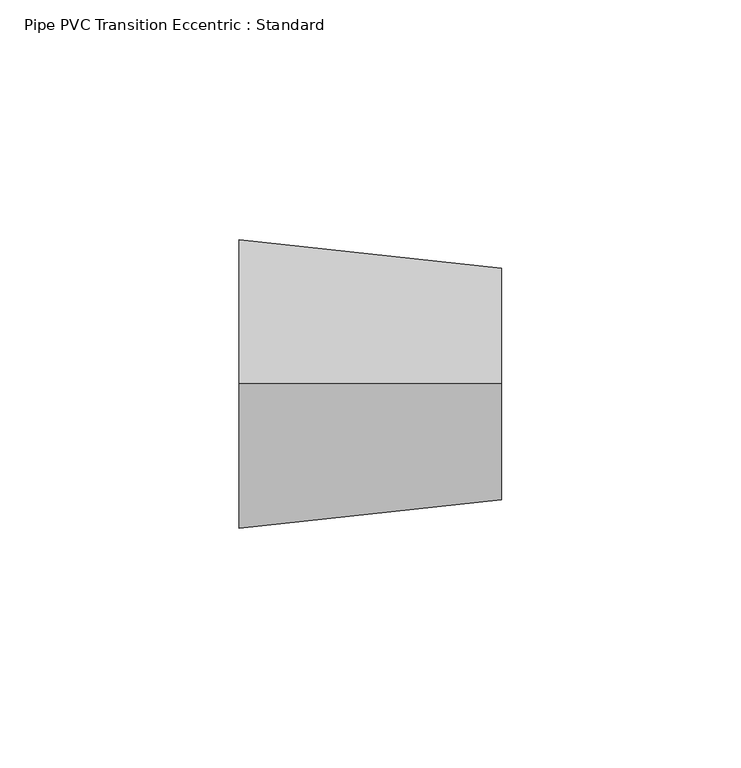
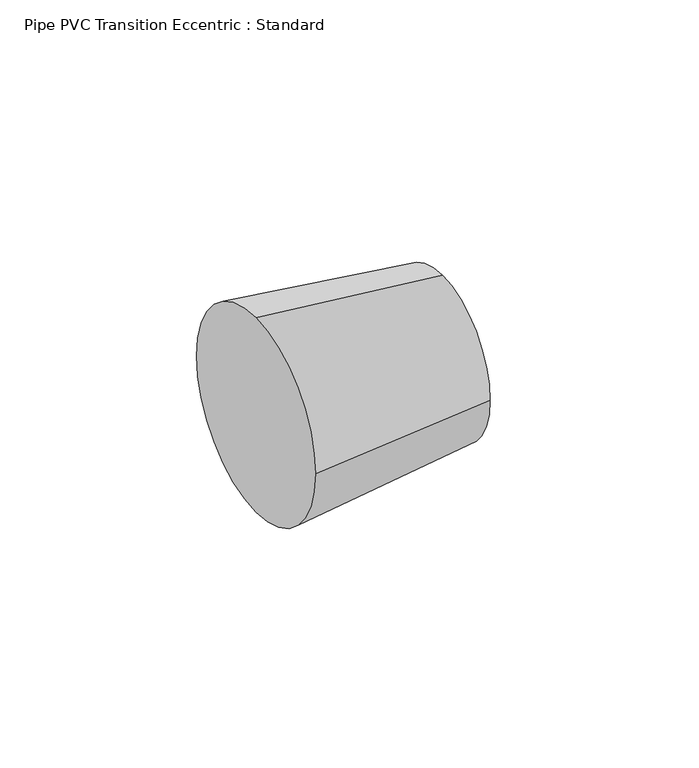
"""IFC4 building model written with IfcOpenShell, lengths in millimetres: pipe fitting geometry, Pipe PVC Transition Eccentric : Standard."""

import ifcopenshell
import ifcopenshell.guid

model = None  # the IFC model being written
_history = None  # IfcOwnerHistory: only IFC2X3 demands one
_inside = {}  # id of a spatial element -> (the spatial element, [elements in it])
_under = {}  # id of a project, library or spatial element -> (it, [spatial elements below it])
_declared = {}  # id of a project -> (the project, [libraries it declares])
_typed = {}  # id of a type object -> (the type object, [elements of that type])
_made_of = {}  # id of a material, layer set ... -> (it, [elements and type objects made of it])


def new_model(schema):
    """Start an empty IFC model of exactly this schema.

    Asked for "IFC4X3", IfcOpenShell would pick the latest addendum, in which some entities
    have other attributes; the version numbers below select the first issue.
    IFC2X3 requires an IfcOwnerHistory on every rooted entity: one is made here for all.
    """
    global model, _history
    if schema == "IFC4X3":
        model = ifcopenshell.file(schema_version=(4, 3, 0, 0))
    else:
        model = ifcopenshell.file(schema=schema)
    _inside.clear()
    _under.clear()
    _declared.clear()
    _typed.clear()
    _made_of.clear()
    _history = None
    if model.schema == "IFC2X3":
        org = make("IfcOrganization", Name="unknown")
        user = make(
            "IfcPersonAndOrganization",
            ThePerson=make("IfcPerson", FamilyName="unknown"),
            TheOrganization=org,
        )
        app = make(
            "IfcApplication",
            ApplicationDeveloper=org,
            Version="unknown",
            ApplicationFullName="unknown",
            ApplicationIdentifier="unknown",
        )
        _history = make(
            "IfcOwnerHistory",
            OwningUser=user,
            OwningApplication=app,
            ChangeAction="ADDED",
            CreationDate=0,
        )
    return model


def make(cls, **values):
    """One entity of the class cls with the attributes given. An attribute that is None is left unset."""
    return model.create_entity(
        cls, **{name: value for name, value in values.items() if value is not None}
    )


def rooted(cls, **values):
    """An entity with a GlobalId (a new one), such as an element, a storey or a relation."""
    return make(cls, GlobalId=ifcopenshell.guid.new(), OwnerHistory=_history, **values)


def si_unit(unit_type, name, prefix=None):
    """IfcSIUnit, for example si_unit("LENGTHUNIT", "METRE", prefix="MILLI")."""
    return make("IfcSIUnit", UnitType=unit_type, Prefix=prefix, Name=name)


def assignment(units):
    """IfcUnitAssignment: the units of a project."""
    return None if units is None else make("IfcUnitAssignment", Units=units)


def point(xyz):
    """IfcCartesianPoint."""
    return None if xyz is None else make("IfcCartesianPoint", Coordinates=xyz)


def direction(xyz):
    """IfcDirection."""
    return None if xyz is None else make("IfcDirection", DirectionRatios=xyz)


def frame(location, z_axis=None, x_axis=None):
    """IfcAxis2Placement3D, a coordinate frame: its origin and axes. An axis left out is left unset."""
    return make(
        "IfcAxis2Placement3D",
        Location=point(location),
        Axis=direction(z_axis),
        RefDirection=direction(x_axis),
    )


def origin():
    """The frame at (0, 0, 0) with its axes left unset."""
    return frame((0.0, 0.0, 0.0))


def place(relative_to, where):
    """IfcLocalPlacement: puts the frame where relative to a parent placement (None: the world)."""
    return make(
        "IfcLocalPlacement", PlacementRelTo=relative_to, RelativePlacement=where
    )


def context(
    kind, dimensions, precision=None, world=None, true_north=None, identifier=None
):
    """IfcGeometricRepresentationContext, for example the 3D "Model" context."""
    return make(
        "IfcGeometricRepresentationContext",
        ContextIdentifier=identifier,
        ContextType=kind,
        CoordinateSpaceDimension=dimensions,
        Precision=precision,
        WorldCoordinateSystem=world,
        TrueNorth=true_north,
    )


def project(units=None, contexts=None):
    """IfcProject with its units and contexts."""
    return rooted(
        "IfcProject",
        Name="project",
        RepresentationContexts=contexts,
        UnitsInContext=assignment(units),
    )


def spatial(cls, under=None, at=None, **own):
    """A site, building, storey or space (cls), placed at a placement, below another one or the project."""
    s = rooted(cls, ObjectPlacement=at, **own)
    if under is not None:
        _under.setdefault(under.id(), (under, []))[1].append(s)
    return s


def polyline(points):
    """IfcPolyline through the points."""
    return make("IfcPolyline", Points=[point(p) for p in points])


def circle_curve(where, radius):
    """IfcCircle in the frame where."""
    return make("IfcCircle", Position=where, Radius=radius)


def shape(context_of_items, identifier, shape_type, items):
    """IfcShapeRepresentation: the items that make up one representation, for example the "Body"."""
    return make(
        "IfcShapeRepresentation",
        ContextOfItems=context_of_items,
        RepresentationIdentifier=identifier,
        RepresentationType=shape_type,
        Items=items,
    )


def source(mapping_origin, context_of_items, identifier, shape_type, items):
    """IfcRepresentationMap: a shape defined once, which mapped items show again and again."""
    return make(
        "IfcRepresentationMap",
        MappingOrigin=mapping_origin,
        MappedRepresentation=shape(context_of_items, identifier, shape_type, items),
    )


def transform(
    local_origin,
    x_axis=None,
    y_axis=None,
    z_axis=None,
    scale=None,
    scale2=None,
    scale3=None,
    uniform=True,
):
    """IfcCartesianTransformationOperator3D, or its non-uniform kind. x_axis, y_axis, z_axis: its Axis1, 2, 3."""
    if uniform:
        return make(
            "IfcCartesianTransformationOperator3D",
            Axis1=direction(x_axis),
            Axis2=direction(y_axis),
            LocalOrigin=point(local_origin),
            Scale=scale,
            Axis3=direction(z_axis),
        )
    return make(
        "IfcCartesianTransformationOperator3DnonUniform",
        Axis1=direction(x_axis),
        Axis2=direction(y_axis),
        LocalOrigin=point(local_origin),
        Scale=scale,
        Axis3=direction(z_axis),
        Scale2=scale2,
        Scale3=scale3,
    )


def mapped(mapping_source, mapping_target):
    """IfcMappedItem: shows the shape of a source again, moved by a transform."""
    return make(
        "IfcMappedItem", MappingSource=mapping_source, MappingTarget=mapping_target
    )


def made_of(thing, what):
    """Note that an element or type object is made of a material, layer set ...; save() writes the relation."""
    if what is not None:
        _made_of.setdefault(what.id(), (what, []))[1].append(thing)
    return thing


def element(
    cls,
    number,
    at=None,
    inside=None,
    cuts=None,
    type_object=None,
    material=None,
    context=None,
    identifier="Body",
    shape_type=None,
    held_by="IfcProductDefinitionShape",
    body=None,
    shapes=None,
    **own,
):
    """One element of the class cls, such as IfcWall. Its Tag is "e" and its number.

    at: its placement. inside: the storey or other place that contains it. cuts: it is an
    opening in that element (IfcRelVoidsElement). A single representation is given by context,
    identifier, shape_type and body (its items); several are given by shapes. held_by: the class
    of the entity that holds the representations. save() writes the other relations.
    """
    e = rooted(cls, Tag="e%d" % number, ObjectPlacement=at, **own)
    if body is not None:
        shapes = [shape(context, identifier, shape_type, body)]
    if shapes is not None:
        e.Representation = make(held_by, Representations=shapes)
    if inside is not None:
        _inside.setdefault(inside.id(), (inside, []))[1].append(e)
    if cuts is not None:
        rooted(
            "IfcRelVoidsElement", RelatingBuildingElement=cuts, RelatedOpeningElement=e
        )
    if type_object is not None:
        _typed.setdefault(type_object.id(), (type_object, []))[1].append(e)
    return made_of(e, material)


def aggregate(whole, parts):
    """IfcRelAggregates: a whole, such as a stair, and the parts it consists of."""
    return rooted("IfcRelAggregates", RelatingObject=whole, RelatedObjects=parts)


def save(model, path):
    """Write the relations noted so far, then the file.

    IfcRelAggregates (storeys below a building ...), IfcRelContainedInSpatialStructure (elements
    in a storey), IfcRelDefinesByType, IfcRelAssociatesMaterial and IfcRelDeclares: one each for
    every whole, place, type object, material and project.
    """
    for whole, parts in _under.values():
        aggregate(whole, parts)
    for where, things in _inside.values():
        rooted(
            "IfcRelContainedInSpatialStructure",
            RelatedElements=things,
            RelatingStructure=where,
        )
    for kind, things in _typed.values():
        rooted("IfcRelDefinesByType", RelatedObjects=things, RelatingType=kind)
    for what, things in _made_of.values():
        rooted("IfcRelAssociatesMaterial", RelatedObjects=things, RelatingMaterial=what)
    for by, libraries in _declared.values():
        rooted("IfcRelDeclares", RelatingContext=by, RelatedDefinitions=libraries)
    model.write(path)


def plane_surface(at):
    """IfcPlane: the flat surface through the origin of the frame at, square to its z axis."""
    return make("IfcPlane", Position=at)


def revolved_surface(curve, axis_point, axis_direction):
    """IfcSurfaceOfRevolution: the curve turned about the line through axis_point along axis_direction."""
    return make(
        "IfcSurfaceOfRevolution",
        SweptCurve=make("IfcArbitraryOpenProfileDef", ProfileType="CURVE", Curve=curve),
        AxisPosition=make("IfcAxis1Placement", Location=point(axis_point), Axis=direction(axis_direction)),
    )


def advanced_brep(points, edges, surfaces, faces):
    """IfcAdvancedBrep: a solid bounded by faces that lie on surfaces and meet in shared edges.

    An edge is (start, end): straight between two places in points (the first is 0);
    or (start, end, curve); or (start, end, curve, False) where it runs against its curve.
    A face is (place in surfaces, loops), or (place, loops, False) where it looks against
    its surface's normal. A loop lists edges by number (the first is 1), with a minus sign
    where the edge is run from its end to its start. The first loop is the outer one.
    """
    corners = [point(p) for p in points]
    vertices = [make("IfcVertexPoint", VertexGeometry=c) for c in corners]
    made = []
    for start, end, *more in edges:
        made.append(
            make(
                "IfcEdgeCurve",
                EdgeStart=vertices[start],
                EdgeEnd=vertices[end],
                EdgeGeometry=more[0] if more else make("IfcPolyline", Points=[corners[start], corners[end]]),
                SameSense=more[1] if len(more) > 1 else True,
            )
        )
    hull = []
    for where, loops, *sense in faces:
        bounds = []
        for j, loop in enumerate(loops):
            ring = [make("IfcOrientedEdge", EdgeElement=made[abs(k) - 1], Orientation=k > 0) for k in loop]
            bounds.append(
                make(
                    "IfcFaceOuterBound" if j == 0 else "IfcFaceBound",
                    Bound=make("IfcEdgeLoop", EdgeList=ring),
                    Orientation=True,
                )
            )
        hull.append(make("IfcAdvancedFace", Bounds=bounds, FaceSurface=surfaces[where], SameSense=sense[0] if sense else True))
    return make("IfcAdvancedBrep", Outer=make("IfcClosedShell", CfsFaces=hull))


def pipe_pvc_transition_eccentric_standard_68aae5c2(model_context):
    return source(origin(), model_context, "Body", "AdvancedBrep", [
        advanced_brep(
        [(54.76875, 0.0, 24.13), (54.76875, -24.13, 0.0), (54.76875, 0.0, -24.13), (54.76875, 24.13, 0.0), (0.0, 0.0, 30.1625), (0.0, 30.1625, 0.0), (0.0, 0.0, -30.1625), (0.0, -30.1625, 0.0)],
        [
            (0, 1, circle_curve(frame((54.76875, 0.0, 0.0), z_axis=(1.0, 0.0, 0.0), x_axis=(0.0, 0.0, 1.0)), 24.13)),
            (1, 2, circle_curve(frame((54.76875, 0.0, 0.0), z_axis=(1.0, 0.0, 0.0), x_axis=(0.0, -1.0, 0.0)), 24.13)),
            (2, 3, circle_curve(frame((54.76875, 0.0, 0.0), z_axis=(1.0, 0.0, 0.0), x_axis=(0.0, 0.0, -1.0)), 24.13)),
            (3, 0, circle_curve(frame((54.76875, 0.0, 0.0), z_axis=(1.0, 0.0, 0.0), x_axis=(0.0, 1.0, 0.0)), 24.13)),
            (4, 5, circle_curve(frame((0.0, 0.0, 0.0), z_axis=(-1.0, 0.0, 0.0), x_axis=(0.0, 1.0, 0.0)), 30.1625)),
            (5, 6, circle_curve(frame((0.0, 0.0, 0.0), z_axis=(-1.0, 0.0, 0.0), x_axis=(0.0, 0.0, -1.0)), 30.1625)),
            (6, 7, circle_curve(frame((0.0, 0.0, 0.0), z_axis=(-1.0, 0.0, 0.0), x_axis=(0.0, -1.0, 0.0)), 30.1625)),
            (7, 4, circle_curve(frame((0.0, 0.0, 0.0), z_axis=(-1.0, 0.0, 0.0), x_axis=(0.0, 0.0, 1.0)), 30.1625)),
            (7, 1),
            (0, 4),
            (6, 2),
            (5, 3),
        ],
        [
            plane_surface(frame((54.76875, 0.0, 0.0), z_axis=(1.0, 0.0, 0.0), x_axis=(0.0, -1.0, 0.0))),
            plane_surface(frame((0.0, 0.0, 0.0), z_axis=(-1.0, 0.0, 0.0), x_axis=(0.0, -1.0, 0.0))),
            revolved_surface(polyline([(54.76875000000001, 0.0, 24.13), (0.0, 0.0, 30.1625)]), (273.84375, 0.0, 0.0), (-1.0, 0.0, 0.0)),
            revolved_surface(polyline([(54.76875000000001, -24.13, 0.0), (0.0, -30.1625, 0.0)]), (273.84375, 0.0, 0.0), (-1.0, 0.0, 0.0)),
            revolved_surface(polyline([(54.76875000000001, 0.0, -24.13), (0.0, 0.0, -30.1625)]), (273.84375, 0.0, 0.0), (-1.0, 0.0, 0.0)),
            revolved_surface(polyline([(54.76875000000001, 24.13, 0.0), (0.0, 30.1625, 0.0)]), (273.84375, 0.0, 0.0), (-1.0, 0.0, 0.0)),
        ],
        [
            (0, [[1, 2, 3, 4]]),
            (1, [[5, 6, 7, 8]]),
            (2, [[-8, 9, -1, 10]]),
            (3, [[-7, 11, -2, -9]]),
            (4, [[-6, 12, -3, -11]]),
            (5, [[-5, -10, -4, -12]]),
        ],
    ),
        advanced_brep(
        [(54.76875, 0.0, 24.13), (54.76875, -24.13, 0.0), (54.76875, 0.0, -24.13), (54.76875, 24.13, 0.0), (0.0, 0.0, 30.1625), (0.0, 30.1625, 0.0), (0.0, 0.0, -30.1625), (0.0, -30.1625, 0.0)],
        [
            (0, 1, circle_curve(frame((54.76875, 0.0, 0.0), z_axis=(1.0, 0.0, 0.0), x_axis=(0.0, 0.0, 1.0)), 24.13)),
            (1, 2, circle_curve(frame((54.76875, 0.0, 0.0), z_axis=(1.0, 0.0, 0.0), x_axis=(0.0, -1.0, 0.0)), 24.13)),
            (2, 3, circle_curve(frame((54.76875, 0.0, 0.0), z_axis=(1.0, 0.0, 0.0), x_axis=(0.0, 0.0, -1.0)), 24.13)),
            (3, 0, circle_curve(frame((54.76875, 0.0, 0.0), z_axis=(1.0, 0.0, 0.0), x_axis=(0.0, 1.0, 0.0)), 24.13)),
            (4, 5, circle_curve(frame((0.0, 0.0, 0.0), z_axis=(-1.0, 0.0, 0.0), x_axis=(0.0, 1.0, 0.0)), 30.1625)),
            (5, 6, circle_curve(frame((0.0, 0.0, 0.0), z_axis=(-1.0, 0.0, 0.0), x_axis=(0.0, 0.0, -1.0)), 30.1625)),
            (6, 7, circle_curve(frame((0.0, 0.0, 0.0), z_axis=(-1.0, 0.0, 0.0), x_axis=(0.0, -1.0, 0.0)), 30.1625)),
            (7, 4, circle_curve(frame((0.0, 0.0, 0.0), z_axis=(-1.0, 0.0, 0.0), x_axis=(0.0, 0.0, 1.0)), 30.1625)),
            (7, 1),
            (0, 4),
            (6, 2),
            (5, 3),
        ],
        [
            plane_surface(frame((54.76875, 0.0, 0.0), z_axis=(1.0, 0.0, 0.0), x_axis=(0.0, -1.0, 0.0))),
            plane_surface(frame((0.0, 0.0, 0.0), z_axis=(-1.0, 0.0, 0.0), x_axis=(0.0, -1.0, 0.0))),
            revolved_surface(polyline([(54.76875000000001, 0.0, 24.13), (0.0, 0.0, 30.1625)]), (273.84375, 0.0, 0.0), (-1.0, 0.0, 0.0)),
            revolved_surface(polyline([(54.76875000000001, -24.13, 0.0), (0.0, -30.1625, 0.0)]), (273.84375, 0.0, 0.0), (-1.0, 0.0, 0.0)),
            revolved_surface(polyline([(54.76875000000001, 0.0, -24.13), (0.0, 0.0, -30.1625)]), (273.84375, 0.0, 0.0), (-1.0, 0.0, 0.0)),
            revolved_surface(polyline([(54.76875000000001, 24.13, 0.0), (0.0, 30.1625, 0.0)]), (273.84375, 0.0, 0.0), (-1.0, 0.0, 0.0)),
        ],
        [
            (0, [[1, 2, 3, 4]]),
            (1, [[5, 6, 7, 8]]),
            (2, [[-8, 9, -1, 10]]),
            (3, [[-7, 11, -2, -9]]),
            (4, [[-6, 12, -3, -11]]),
            (5, [[-5, -10, -4, -12]]),
        ],
    ),
    ])


if __name__ == "__main__":
    model = new_model("IFC4")
    model_context = context("Model", 3, world=origin())
    ifc_project = project(units=[si_unit("LENGTHUNIT", "METRE", prefix="MILLI")], contexts=[model_context])
    site = spatial("IfcSite", under=ifc_project)
    building = spatial("IfcBuilding", under=site)
    placement = place(None, origin())
    pipe_pvc_transition_eccentric_standard_shape = pipe_pvc_transition_eccentric_standard_68aae5c2(model_context)
    element("IfcPipeFitting", 1, ObjectType="Pipe PVC Transition Eccentric : Standard", at=placement, inside=building, context=model_context, shape_type="MappedRepresentation", body=[
        mapped(pipe_pvc_transition_eccentric_standard_shape, transform((0.0, 0.0, 0.0), x_axis=(1.0, 0.0, 0.0), y_axis=(0.0, 1.0, 0.0), z_axis=(0.0, 0.0, 1.0))),
    ])
    save(model, "model.ifc")
